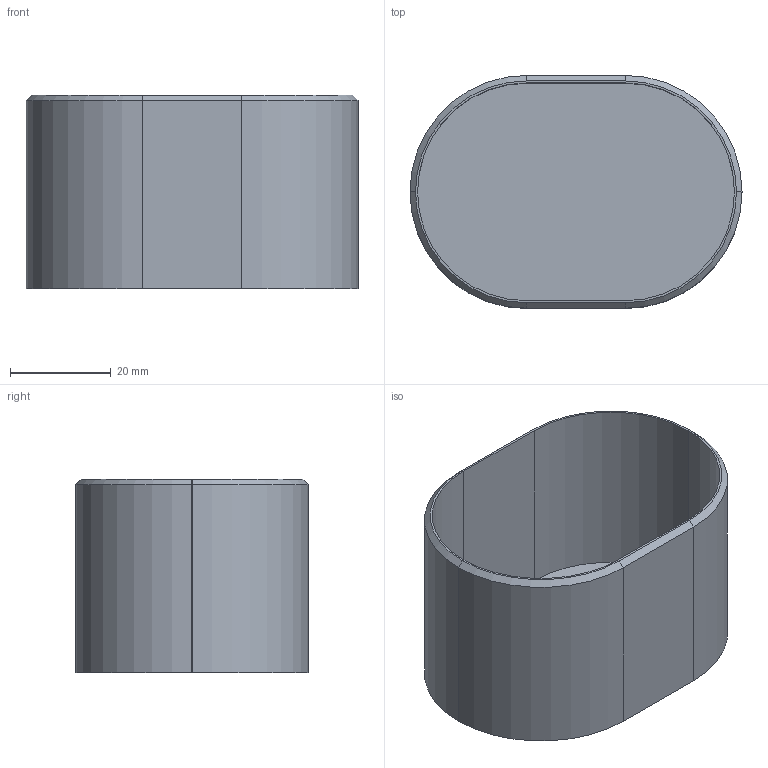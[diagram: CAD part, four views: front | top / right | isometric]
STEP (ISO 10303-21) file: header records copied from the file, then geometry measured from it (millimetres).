
FILE_DESCRIPTION(('Open CASCADE Model'),'2;1');
FILE_NAME('Open CASCADE Shape Model','2026-11-02T16:52:50',('Author'),( 'Open CASCADE'),'Open CASCADE STEP processor 7.8','Open CASCADE 7.8' ,'Unknown');
FILE_SCHEMA(('AUTOMOTIVE_DESIGN { 1 0 10303 214 1 1 1 1 }'));
Length unit declared in the file: millimetre
Products named in the file (1): Open CASCADE STEP translator 7.8 3
Bounding box: 65.97 x 46.27 x 38.5 mm (x, y, z)
Volume: 14935 mm3; surface area: 18580.5 mm2
Topology: 1 solids, 1 shells, 27 faces, 64 edges, 40 vertices
Faces by surface type: plane 15, cylinder 8, cone 4
Entity records: 1622 total; most frequent: CARTESIAN_POINT 344, DIRECTION 234, LINE 132, VECTOR 132, ORIENTED_EDGE 128, PCURVE 128, DEFINITIONAL_REPRESENTATION 128, EDGE_CURVE 64
